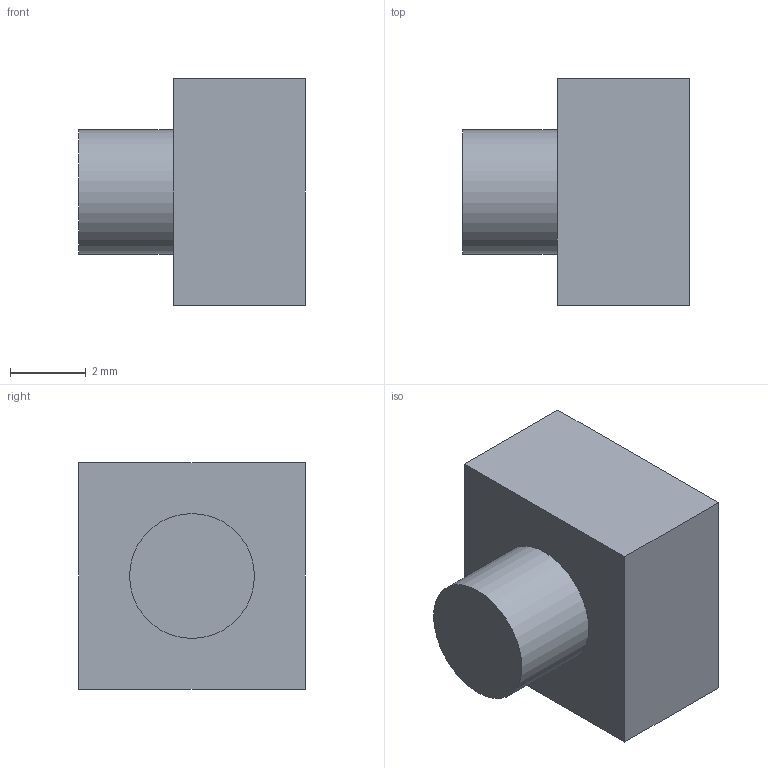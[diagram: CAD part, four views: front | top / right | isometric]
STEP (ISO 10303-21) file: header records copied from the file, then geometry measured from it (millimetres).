
FILE_DESCRIPTION(/* description */ (''),/* implementation_level */ '2;1');
FILE_NAME(/* name */ 'REF_03_Talk_switch_NOMINAL.step',/* time_stamp */ '2026-09-16T19:15:04-07:00',/* author */ (''),/* organization */ (''),/* preprocessor_version */ 'ST-DEVELOPER v20.1',/* originating_system */ 'Autodesk Translation Framework v15.8.0.0',/* authorisation */ '');
FILE_SCHEMA (('AUTOMOTIVE_DESIGN { 1 0 10303 214 3 1 1 }'));
Length unit declared in the file: centimetre
Products named in the file (1): 2026-09-16-19-15-04-495
Bounding box: 6 x 6 x 6 mm (x, y, z)
Volume: 147.4 mm3; surface area: 181.9 mm2
Topology: 1 solids, 1 shells, 8 faces, 15 edges, 10 vertices
Faces by surface type: plane 7, cylinder 1
Full cylindrical faces by diameter (mm): 3.3 x1
Entity records: 241 total; most frequent: DIRECTION 35, CARTESIAN_POINT 34, ORIENTED_EDGE 30, EDGE_CURVE 15, LINE 13, VECTOR 13, AXIS2_PLACEMENT_3D 11, VERTEX_POINT 10
